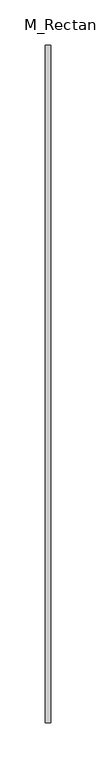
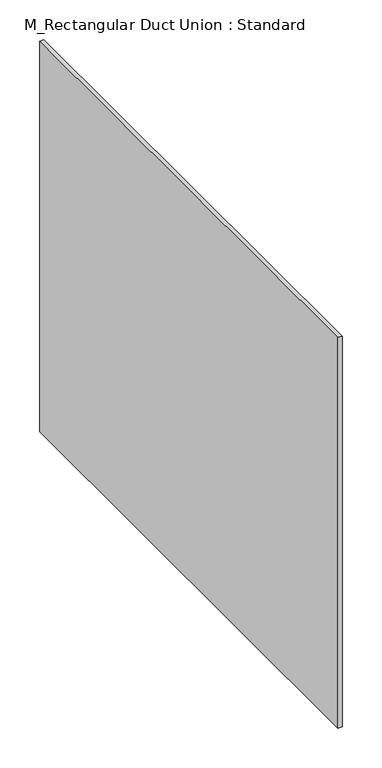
"""IFC4 building model written with IfcOpenShell, lengths in millimetres: duct fitting geometry, M_Rectangular Duct Union : Standard."""

from ifc_helpers import new_model, si_unit, frame, origin, place, context, project, spatial, polyline, outline, extrude, source, transform, mapped, element, save


def m_rectangular_duct_union_standard_44a3ab8d(model_context):
    return source(origin(), model_context, "Body", "SweptSolid", [
        extrude(outline(polyline([(3.0, 375.0), (3.0, -375.0), (-3.0, -375.0), (-3.0, 375.0), (3.0, 375.0)])), frame((0.0, 0.0, -300.0), z_axis=(0.0, 0.0, 1.0), x_axis=(1.0, 0.0, 0.0)), (0.0, 0.0, 1.0), 600.0),
        extrude(outline(polyline([(3.0, 375.0), (3.0, -375.0), (-3.0, -375.0), (-3.0, 375.0), (3.0, 375.0)])), frame((0.0, 0.0, -300.0), z_axis=(0.0, 0.0, 1.0), x_axis=(1.0, 0.0, 0.0)), (0.0, 0.0, 1.0), 600.0),
        extrude(outline(polyline([(3.0, 375.0), (3.0, -375.0), (-3.0, -375.0), (-3.0, 375.0), (3.0, 375.0)])), frame((0.0, 0.0, -300.0), z_axis=(0.0, 0.0, 1.0), x_axis=(1.0, 0.0, 0.0)), (0.0, 0.0, 1.0), 600.0),
    ])


if __name__ == "__main__":
    model = new_model("IFC4")
    model_context = context("Model", 3, world=origin())
    ifc_project = project(units=[si_unit("LENGTHUNIT", "METRE", prefix="MILLI")], contexts=[model_context])
    site = spatial("IfcSite", under=ifc_project)
    building = spatial("IfcBuilding", under=site)
    placement = place(None, origin())
    m_rectangular_duct_union_standard_shape = m_rectangular_duct_union_standard_44a3ab8d(model_context)
    element("IfcDuctFitting", 1, ObjectType="M_Rectangular Duct Union : Standard", at=placement, inside=building, context=model_context, shape_type="MappedRepresentation", body=[
        mapped(m_rectangular_duct_union_standard_shape, transform((0.0, 0.0, 0.0), x_axis=(1.0, 0.0, 0.0), y_axis=(0.0, 1.0, 0.0), z_axis=(0.0, 0.0, 1.0))),
    ])
    save(model, "model.ifc")
